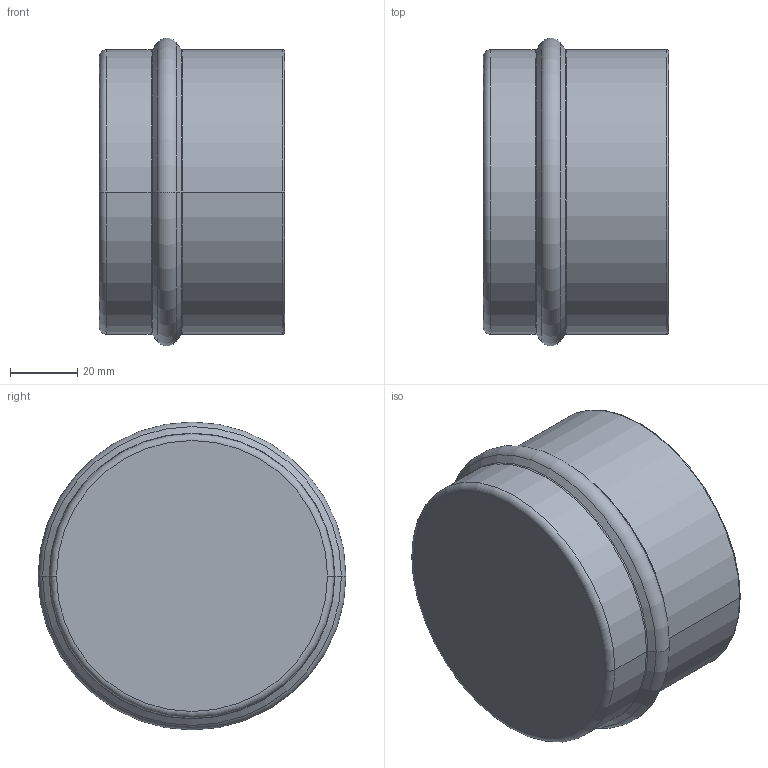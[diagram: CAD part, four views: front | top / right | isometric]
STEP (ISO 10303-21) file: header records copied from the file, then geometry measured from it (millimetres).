
FILE_DESCRIPTION((''),'2;1');
FILE_NAME('2014700600','2017-05-10T',('Administrator'),(''),'PRO/ENGINEER BY PARAMETRIC TECHNOLOGY CORPORATION, 2009360','PRO/ENGINEER BY PARAMETRIC TECHNOLOGY CORPORATION, 2009360','');
FILE_SCHEMA(('AUTOMOTIVE_DESIGN_CC2 { 1 2 10303 214 -1 1 5 2 }'));
Length unit declared in the file: millimetre
Products named in the file (1): 2014700600
Bounding box: 55 x 91.48 x 91.48 mm (x, y, z)
Volume: 97354.7 mm3; surface area: 37012.9 mm2
Topology: 1 solids, 1 shells, 25 faces, 48 edges, 26 vertices
Faces by surface type: torus 12, cylinder 6, cone 4, plane 3
Entity records: 811 total; most frequent: DIRECTION 136, CARTESIAN_POINT 99, ORIENTED_EDGE 96, AXIS2_PLACEMENT_3D 63, PRESENTATION_STYLE_ASSIGNMENT 49, STYLED_ITEM 49, CURVE_STYLE 48, EDGE_CURVE 48
